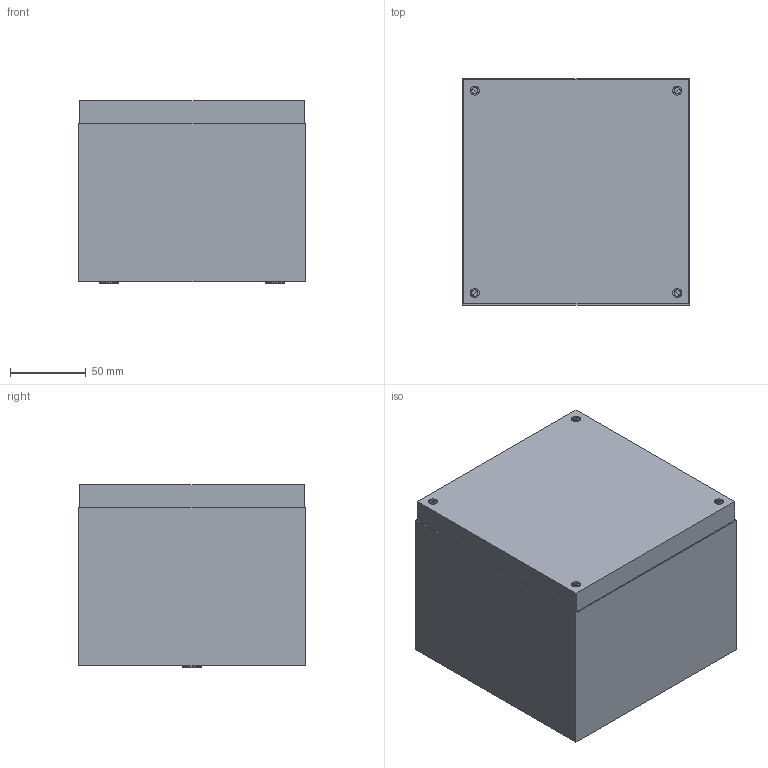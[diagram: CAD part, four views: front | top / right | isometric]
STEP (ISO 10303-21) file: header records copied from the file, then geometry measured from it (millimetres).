
FILE_DESCRIPTION(/* description */ ('Unknown'),/* implementation_level */ '2;1');
FILE_NAME(/* name */ 'SCA01501512',/* time_stamp */ '2025-01-31T16:11:03+01:00',/* author */ ('Unknown'),/* organization */ ('Unknown'),/* preprocessor_version */ 'ST-DEVELOPER v19.4',/* originating_system */ 'Solid Edge',/* authorisation */ 'Unknown');
FILE_SCHEMA (('CONFIG_CONTROL_DESIGN'));
Length unit declared in the file: millimetre
Products named in the file (9): SCA01501512; S000X000.16; S0000000.13; AE00511.01; S0000000.78; S0000000.02; S000X000.15_oa_0; S0000000.12; AE00407.01
Assembly tree (13 placements, depth 3):
  SCA01501512
    S000X000.16
      S0000000.13
      AE00511.01  x4
    S0000000.78  x2
    S0000000.02  x2
    S000X000.15_oa_0
      S0000000.12
      AE00407.01
Bounding box: 150 x 150 x 121 mm (x, y, z)
Volume: 258366.1 mm3; surface area: 246465.3 mm2
Topology: 11 solids, 11 shells, 279 faces, 665 edges, 425 vertices
Faces by surface type: plane 167, cylinder 56, cone 49, torus 7
Full cylindrical faces by diameter (mm): 4.2 x6, 5 x3, 6 x4, 6.5 x1, 6.647 x2, 7 x4, 8 x2, 8.25 x2, 11 x2, 12 x2
Entity records: 4177 total; most frequent: CARTESIAN_POINT 667, DIRECTION 580, ORIENTED_EDGE 504, EDGE_CURVE 252, AXIS2_PLACEMENT_3D 214, VERTEX_POINT 181, FACE_BOUND 181, EDGE_LOOP 180
